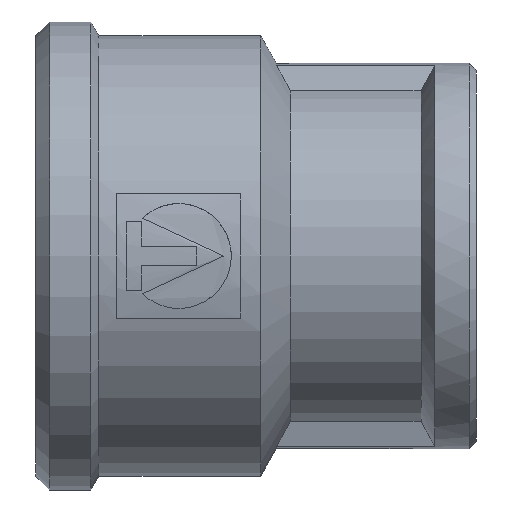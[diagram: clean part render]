
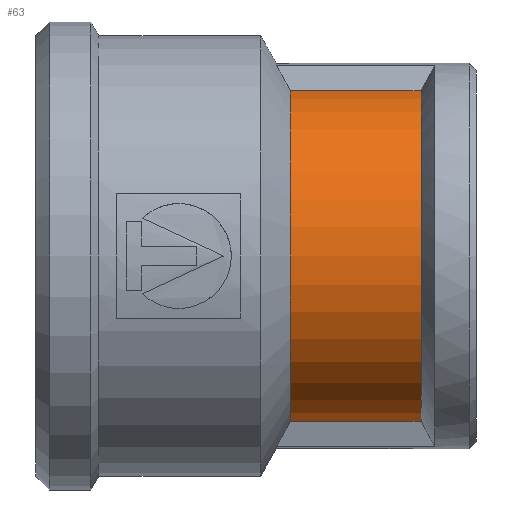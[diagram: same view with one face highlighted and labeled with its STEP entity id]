
A CAD part, left-side view. The second image highlights one B-rep face of the part: STEP entity #63.
In plain terms, the highlighted cylindrical face has radius 12.25 mm (diameter 24.5 mm), a partial arc.
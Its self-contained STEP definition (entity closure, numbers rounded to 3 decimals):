
#63=ADVANCED_FACE('',(#458),#460,.T.);
#458=FACE_BOUND('',#459,.T.);
#459=EDGE_LOOP('',(#2113,#2114,#2115,#2116,#2117));
#460=CYLINDRICAL_SURFACE('',#461,12.25);
#461=AXIS2_PLACEMENT_3D('',#462,#463,#464);
#462=CARTESIAN_POINT('',(0.,-32.,0.));
#463=DIRECTION('',(0.,1.,0.));
#464=DIRECTION('',(-1.,0.,0.));
#2113=ORIENTED_EDGE('',*,*,#3554,.F.);
#2114=ORIENTED_EDGE('',*,*,#3553,.F.);
#2115=ORIENTED_EDGE('',*,*,#3550,.F.);
#2116=ORIENTED_EDGE('',*,*,#3547,.T.);
#2117=ORIENTED_EDGE('',*,*,#3546,.T.);
#3546=EDGE_CURVE('',#4215,#4213,#4216,.F.);
#3547=EDGE_CURVE('',#4217,#4215,#4218,.F.);
#3550=EDGE_CURVE('',#4217,#4222,#4223,.F.);
#3553=EDGE_CURVE('',#4222,#4225,#4227,.T.);
#3554=EDGE_CURVE('',#4225,#4213,#4228,.T.);
#4213=VERTEX_POINT('',#5383);
#4215=VERTEX_POINT('',#5392);
#4216=CIRCLE('',#5393,12.25);
#4217=VERTEX_POINT('',#5397);
#4218=CIRCLE('',#5398,12.25);
#4222=VERTEX_POINT('',#5415);
#4223=LINE('',#5416,#5417);
#4225=VERTEX_POINT('',#5425);
#4227=CIRCLE('',#5432,12.25);
#4228=LINE('',#5436,#5437);
#5383=CARTESIAN_POINT('',(-2.499,-18.5,-11.992));
#5392=CARTESIAN_POINT('',(-12.25,-18.5,0.));
#5393=AXIS2_PLACEMENT_3D('',#5394,#5395,#5396);
#5394=CARTESIAN_POINT('',(0.,-18.5,0.));
#5395=DIRECTION('',(0.,1.,0.));
#5396=DIRECTION('',(-0.204,0.,-0.979));
#5397=CARTESIAN_POINT('',(-2.499,-18.5,11.992));
#5398=AXIS2_PLACEMENT_3D('',#5399,#5400,#5401);
#5399=CARTESIAN_POINT('',(0.,-18.5,0.));
#5400=DIRECTION('',(0.,1.,0.));
#5401=DIRECTION('',(-1.,0.,0.));
#5415=CARTESIAN_POINT('',(-2.499,-27.99,11.992));
#5416=CARTESIAN_POINT('',(-2.499,-27.99,11.992));
#5417=VECTOR('',#5418,1.);
#5418=DIRECTION('',(0.,1.,0.));
#5425=CARTESIAN_POINT('',(-2.499,-27.99,-11.992));
#5432=AXIS2_PLACEMENT_3D('',#5433,#5434,#5435);
#5433=CARTESIAN_POINT('',(0.,-27.99,0.));
#5434=DIRECTION('',(0.,-1.,0.));
#5435=DIRECTION('',(-0.204,0.,0.979));
#5436=CARTESIAN_POINT('',(-2.499,-27.99,-11.992));
#5437=VECTOR('',#5438,1.);
#5438=DIRECTION('',(0.,1.,0.));
